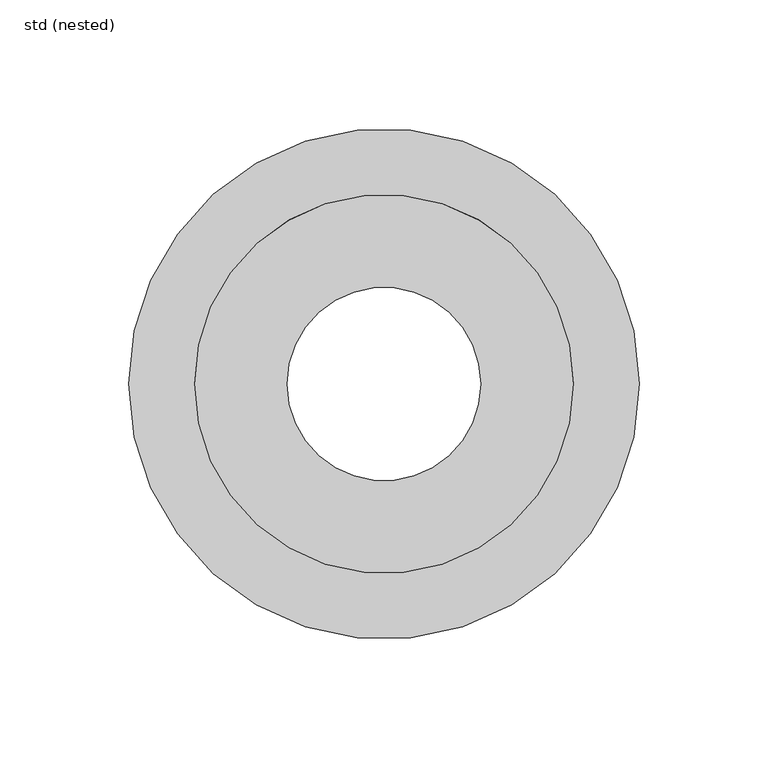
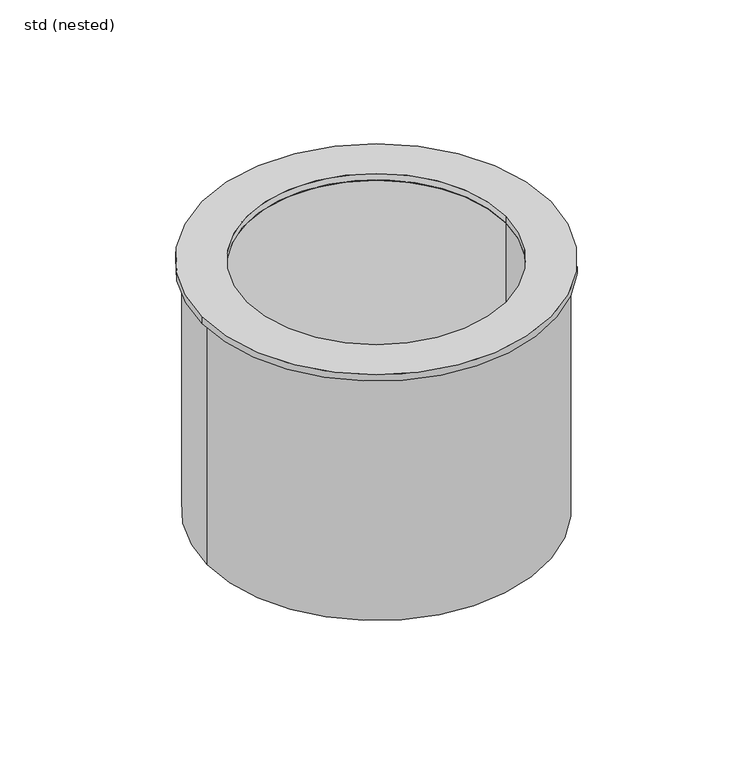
"""IFC4 building model written with IfcOpenShell, lengths in millimetres: damper geometry, ZZZ_do_not_use_PIA_GEN_UN_fire resistant kit for hygienic gullies_ACO : std (nested)."""

from ifc_helpers import new_model, si_unit, point, frame, origin, origin_with_axes, origin_2d, place, context, project, spatial, polyline, circle_curve, trimmed, segment, composite_curve, outline, extrude, source, transform, mapped, element, save
from ifc_brep_helpers import plane_surface, cylinder_surface, revolved_surface, advanced_brep


def std_nested_f72d1ae2(model_context):
    return source(origin(), model_context, "Body", "SolidModel", [
        advanced_brep(
        [(-96.0, 0.0, -150.0), (96.0, 0.0, -150.0), (-37.5, 0.0, -150.0), (37.5, 0.0, -150.0), (-96.0, 0.0, -4.0), (96.0, 0.0, -4.0), (-73.5, 0.0, -4.0), (73.5, 0.0, -4.0), (-73.5, 0.0, -146.0), (73.5, 0.0, -146.0), (96.0, 0.0, -146.0), (-96.0, 0.0, -146.0), (-37.5, 0.0, -146.0), (37.5, 0.0, -146.0)],
        [
            (0, 1, circle_curve(frame((0.0, 0.0, -150.0), z_axis=(0.0, 0.0, -1.0), x_axis=(1.0, 0.0, 0.0)), 96.0)),
            (1, 0, circle_curve(frame((0.0, 0.0, -150.0), z_axis=(0.0, 0.0, -1.0), x_axis=(1.0, 0.0, 0.0)), 96.0)),
            (2, 3, circle_curve(frame((0.0, 0.0, -150.0), z_axis=(0.0, 0.0, 1.0), x_axis=(1.0, 0.0, 0.0)), 37.5)),
            (3, 2, circle_curve(frame((0.0, 0.0, -150.0), z_axis=(0.0, 0.0, 1.0), x_axis=(1.0, 0.0, 0.0)), 37.5)),
            (4, 5, circle_curve(frame((0.0, 0.0, -4.0), z_axis=(0.0, 0.0, 1.0), x_axis=(1.0, 0.0, 0.0)), 96.0)),
            (5, 4, circle_curve(frame((0.0, 0.0, -4.0), z_axis=(0.0, 0.0, 1.0), x_axis=(1.0, 0.0, 0.0)), 96.0)),
            (6, 7, circle_curve(frame((0.0, 0.0, -4.0), z_axis=(0.0, 0.0, -1.0), x_axis=(1.0, 0.0, 0.0)), 73.5)),
            (7, 6, circle_curve(frame((0.0, 0.0, -4.0), z_axis=(0.0, 0.0, -1.0), x_axis=(1.0, 0.0, 0.0)), 73.5)),
            (6, 8),
            (8, 9, circle_curve(frame((0.0, 0.0, -146.0), z_axis=(0.0, 0.0, -1.0), x_axis=(1.0, 0.0, 0.0)), 73.5)),
            (9, 7),
            (9, 8, circle_curve(frame((0.0, 0.0, -146.0), z_axis=(0.0, 0.0, -1.0), x_axis=(1.0, 0.0, 0.0)), 73.5)),
            (1, 10),
            (10, 5),
            (4, 11),
            (11, 0),
            (12, 13, circle_curve(frame((0.0, 0.0, -146.0), z_axis=(0.0, 0.0, -1.0), x_axis=(1.0, 0.0, 0.0)), 37.5)),
            (13, 12, circle_curve(frame((0.0, 0.0, -146.0), z_axis=(0.0, 0.0, -1.0), x_axis=(1.0, 0.0, 0.0)), 37.5)),
            (3, 13),
            (12, 2),
        ],
        [
            plane_surface(frame((73.5, 0.0, -150.0), z_axis=(0.0, 0.0, -1.0), x_axis=(0.0, 1.0, 0.0))),
            plane_surface(frame((73.5, 0.0, -4.0), z_axis=(0.0, 0.0, 1.0), x_axis=(0.0, -1.0, 0.0))),
            revolved_surface(polyline([(73.5, 0.0, -146.0), (73.5, 0.0, -4.0)]), (0.0, 0.0, -150.0), (0.0, 0.0, -1.0)),
            cylinder_surface(origin_with_axes(), 96.0),
            plane_surface(frame((96.0, 0.0, -146.0), z_axis=(0.0, 0.0, 1.0), x_axis=(0.0, 1.0, 0.0))),
            revolved_surface(polyline([(37.5, 0.0, -150.0), (37.5, 0.0, -146.0)]), (0.0, 0.0, 0.0), (0.0, 0.0, -1.0)),
        ],
        [
            (0, [[1, 2], [3, 4]]),
            (1, [[5, 6], [7, 8]]),
            (2, [[-7, 9, 10, 11]]),
            (2, [[-8, -11, 12, -9]]),
            (3, [[-2, 13, 14, -5, 15, 16]]),
            (3, [[-1, -16, -15, -6, -14, -13]]),
            (4, [[-10, -12], [17, 18]]),
            (5, [[-4, 19, -17, 20]]),
            (5, [[-3, -20, -18, -19]]),
        ],
    ),
        extrude(outline(composite_curve([segment(trimmed(circle_curve(origin_2d(), 99.0), [point((-99.0, 0.0))], [point((99.0, 0.0))], False, "CARTESIAN"), True, "CONTINUOUS"), segment(trimmed(circle_curve(origin_2d(), 99.0), [point((99.0, 0.0))], [point((-99.0, 0.0))], False, "CARTESIAN"), True, "CONTINUOUS")], self_intersect=False), holes=[composite_curve([segment(trimmed(circle_curve(origin_2d(), 73.5), [point((-73.5, 0.0))], [point((73.5, 0.0))], True, "CARTESIAN"), True, "CONTINUOUS"), segment(trimmed(circle_curve(origin_2d(), 73.5), [point((73.5, 0.0))], [point((-73.5, 0.0))], True, "CARTESIAN"), True, "CONTINUOUS")], self_intersect=False)]), frame((0.0, 0.0, -4.0), z_axis=(0.0, 0.0, 1.0), x_axis=(1.0, 0.0, 0.0)), (0.0, 0.0, 1.0), 4.0),
    ])


if __name__ == "__main__":
    model = new_model("IFC4")
    model_context = context("Model", 3, world=origin())
    ifc_project = project(units=[si_unit("LENGTHUNIT", "METRE", prefix="MILLI")], contexts=[model_context])
    site = spatial("IfcSite", under=ifc_project)
    building = spatial("IfcBuilding", under=site)
    placement = place(None, origin())
    std_nested_shape = std_nested_f72d1ae2(model_context)
    element("IfcDamper", 1, ObjectType="ZZZ_do_not_use_PIA_GEN_UN_fire resistant kit for hygienic gullies_ACO : std (nested)", at=placement, inside=building, context=model_context, shape_type="MappedRepresentation", body=[
        mapped(std_nested_shape, transform((0.0, 0.0, 0.0), x_axis=(1.0, 0.0, 0.0), y_axis=(0.0, 1.0, 0.0), z_axis=(0.0, 0.0, 1.0))),
    ])
    save(model, "model.ifc")
